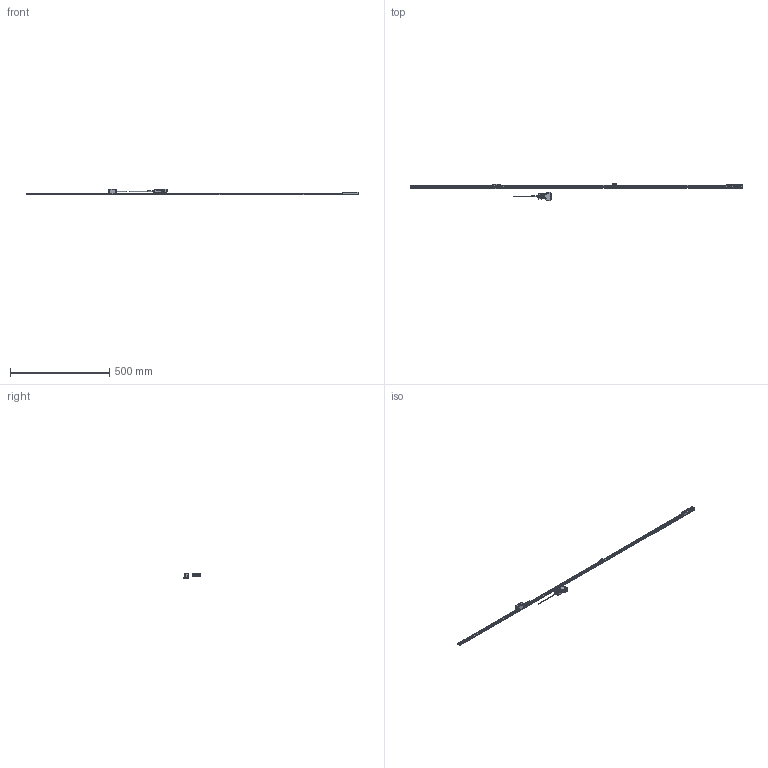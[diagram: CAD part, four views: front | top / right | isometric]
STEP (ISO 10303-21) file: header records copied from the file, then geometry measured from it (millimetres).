
FILE_DESCRIPTION(('Creo Elements/Direct Modeling STEP Export'),'2;1');
FILE_NAME('ST1300-1500D.stp','2018-03-01T12:53:39',(''),(''),'Creo Elements/Direct Modeling STEP processor for AP214 (Solid Model)','Creo Elements/Direct Modeling 18.1B 29-Sep-2012 (C) Parametric Technology GmbH','');
FILE_SCHEMA(('AUTOMOTIVE_DESIGN { 1 0 10303 214 1 1 1 1 }'));
Length unit declared in the file: millimetre
Products named in the file (4): Detector_Head; Scale_1500; Connector; ST1300-1500D
Assembly tree (3 placements, depth 2):
  ST1300-1500D
    Connector
    Scale_1500
    Detector_Head
Bounding box: 1673 x 88.3 x 30.1 mm (x, y, z)
Volume: 159410.6 mm3; surface area: 109472.5 mm2
Topology: 2 solids, 10 shells, 3818 faces, 10443 edges, 6799 vertices
Faces by surface type: plane 1801, cylinder 1650, extrusion 207, cone 103, torus 30, bspline 23, revolution 4
Entity records: 126877 total; most frequent: CARTESIAN_POINT 29451, ORIENTED_EDGE 20862, DIRECTION 19526, EDGE_CURVE 10427, VERTEX_POINT 6799, AXIS2_PLACEMENT_3D 6551, VECTOR 6418, LINE 6233
